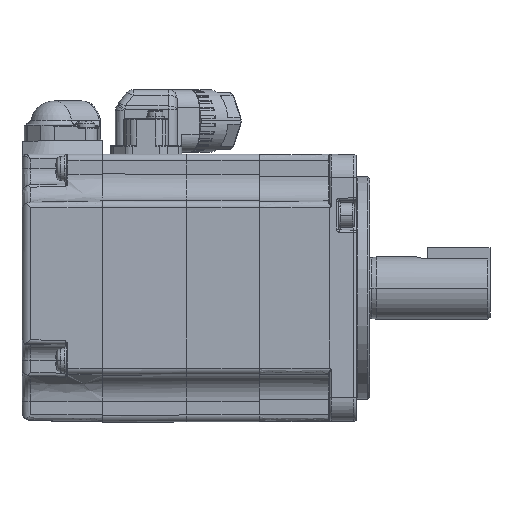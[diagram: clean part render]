
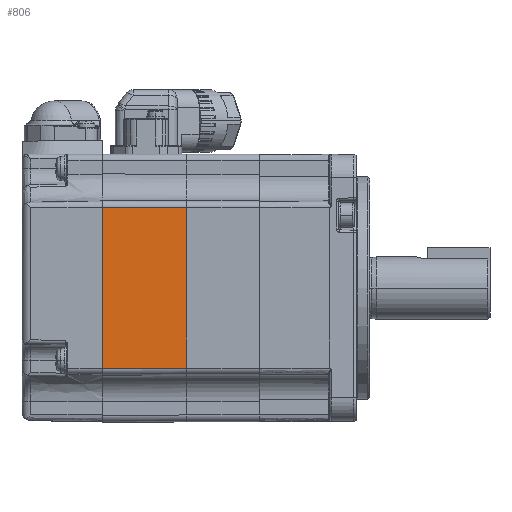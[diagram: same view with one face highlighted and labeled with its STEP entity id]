
A CAD part, top view. The second image highlights one B-rep face of the part: STEP entity #806.
In plain terms, the highlighted planar face has unit normal (0.004, 0, 1).
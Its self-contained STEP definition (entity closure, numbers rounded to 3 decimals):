
#806=ADVANCED_FACE('',(#6052),#6051,.T.);
#6051=PLANE('',#15450);
#6052=FACE_OUTER_BOUND('',#15451,.T.);
#15447=CARTESIAN_POINT('',(-58.895,-21.701,30.092));
#15448=DIRECTION('',(0.004,0.,1.));
#15449=DIRECTION('',(1.,0.,-0.004));
#15450=AXIS2_PLACEMENT_3D('',#15447,#15448,#15449);
#15451=EDGE_LOOP('',(#23638,#23639,#23640,#23641));
#23638=ORIENTED_EDGE('',*,*,#27614,.F.);
#23639=ORIENTED_EDGE('',*,*,#27615,.T.);
#23640=ORIENTED_EDGE('',*,*,#27224,.F.);
#23641=ORIENTED_EDGE('',*,*,#27616,.T.);
#27224=EDGE_CURVE('',#36327,#36314,#36334,.T.);
#27614=EDGE_CURVE('',#38941,#38942,#38943,.T.);
#27615=EDGE_CURVE('',#38941,#36314,#38949,.T.);
#27616=EDGE_CURVE('',#36327,#38942,#38955,.T.);
#36314=VERTEX_POINT('',#50259);
#36327=VERTEX_POINT('',#50267);
#36334=LINE('',#50271,#50272);
#38941=VERTEX_POINT('',#52200);
#38942=VERTEX_POINT('',#52201);
#38943=LINE('',#52202,#52203);
#38949=LINE('',#52205,#52206);
#38955=LINE('',#52208,#52209);
#50259=CARTESIAN_POINT('',(-38.05,-18.001,30.001));
#50267=CARTESIAN_POINT('',(-38.05,18.,30.));
#50271=CARTESIAN_POINT('',(-38.05,18.001,30.001));
#50272=VECTOR('',#50273,36.002);
#50273=DIRECTION('',(0.,-1.,0.));
#52200=CARTESIAN_POINT('',(-57.,-18.084,30.084));
#52201=CARTESIAN_POINT('',(-57.,18.084,30.084));
#52202=CARTESIAN_POINT('',(-57.,-18.084,30.084));
#52203=VECTOR('',#52204,36.168);
#52204=DIRECTION('',(0.,1.,0.));
#52205=CARTESIAN_POINT('',(-57.,-18.084,30.084));
#52206=VECTOR('',#52207,18.95);
#52207=DIRECTION('',(1.,0.004,-0.004));
#52208=CARTESIAN_POINT('',(-38.05,18.001,30.001));
#52209=VECTOR('',#52210,18.95);
#52210=DIRECTION('',(-1.,0.004,0.004));
